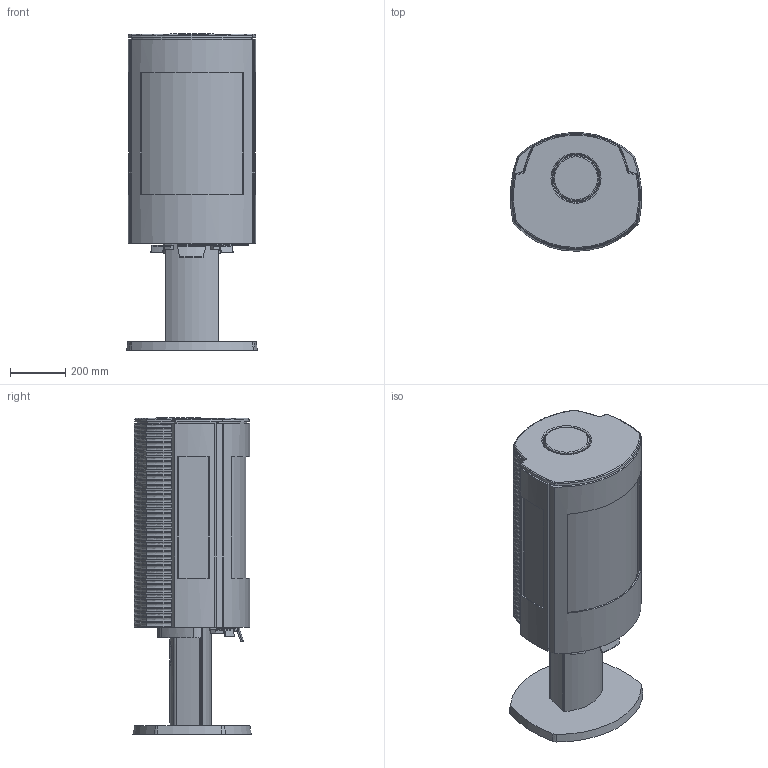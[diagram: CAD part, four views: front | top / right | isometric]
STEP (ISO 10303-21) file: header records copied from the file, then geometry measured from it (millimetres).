
FILE_DESCRIPTION((''),'2;1');
FILE_NAME('D:\Sudhir\DOVRE\ASTRO 4_BODY\Output\28-03-2011\Astro 4\Astro 4 - Pedestal\ASTRO 4_PEDESTAL.stp','2011-03-28T10:34:06',('sp11'),(''),'Autodesk Inventor 2010','Autodesk Inventor 2010','');
FILE_SCHEMA(('AUTOMOTIVE_DESIGN { 1 0 10303 214 1 1 1 1 }'));
Length unit declared in the file: millimetre
Products named in the file (7): ASTRO 4_PEDESTAL; Astro 4 Body; ASTRO 4_BODY; ASTRO 4_Glas; ASTRO 4_Glas_1; ASTRO 4_Glas_2
Assembly tree (6 placements, depth 3):
  ASTRO 4_PEDESTAL
    Astro 4 Body
      ASTRO 4_BODY
      ASTRO 4_Glas
      ASTRO 4_Glas_1
      ASTRO 4_Glas_2
    ASTRO 4_PEDESTAL
Bounding box: 473.13 x 428.55 x 1143 mm (x, y, z)
Volume: 24552884.4 mm3; surface area: 4767436.5 mm2
Topology: 5 solids, 5 shells, 1536 faces, 4266 edges, 2728 vertices
Faces by surface type: bspline 847, plane 361, cylinder 289, cone 21, torus 16, sphere 2
Full cylindrical faces by diameter (mm): 10.5 x2, 11.65 x2, 163 x1, 170 x1
Entity records: 150124 total; most frequent: CARTESIAN_POINT 116401, ORIENTED_EDGE 8488, DIRECTION 4743, EDGE_CURVE 4244, VERTEX_POINT 2726, B_SPLINE_CURVE_WITH_KNOTS 1889, AXIS2_PLACEMENT_3D 1691, EDGE_LOOP 1595
